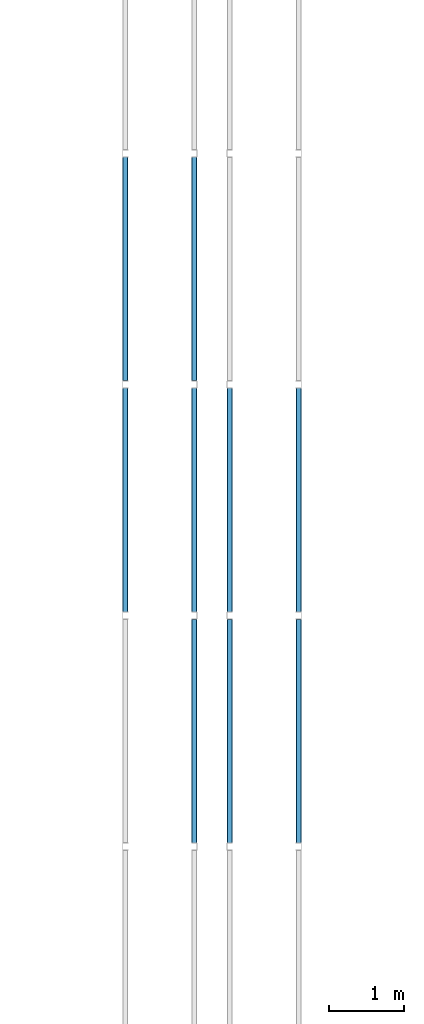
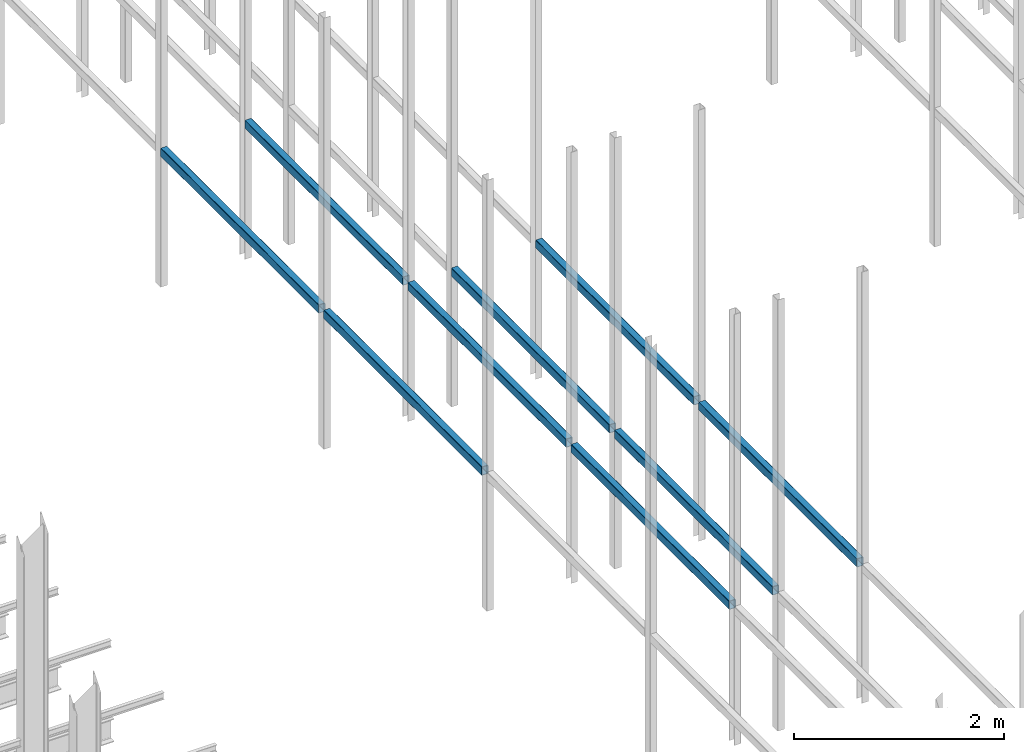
# One storey, part 178 of 302: 9 beams.
"""IFC2X3 building model written with IfcOpenShell, lengths in metres."""

from ifc_helpers import new_model, entity, si_unit, converted_unit, derived_unit, direction, frame, frame_2d, origin, place, context, subcontext, project, spatial, polyline, circle_curve, parameter, trimmed, segment, composite_curve, outline, extrude, material, type_object, element, save


model = new_model("IFC2X3")

# Units and contexts
model_context = context("Model", 3, precision=1e-05, world=origin(), true_north=direction((6.12303176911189e-17, 1.0)))
body_context = subcontext(model_context, "Body", "Model", "MODEL_VIEW")
ifc_project = project(units=[si_unit("LENGTHUNIT", "METRE"), si_unit("AREAUNIT", "SQUARE_METRE"), si_unit("VOLUMEUNIT", "CUBIC_METRE"), converted_unit("PLANEANGLEUNIT", "DEGREE", entity("IfcRatioMeasure", 0.0174532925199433), si_unit("PLANEANGLEUNIT", "RADIAN"), dimensions=[0, 0, 0, 0, 0, 0, 0]), si_unit("MASSUNIT", "GRAM", prefix="KILO"), derived_unit("MASSDENSITYUNIT", [(si_unit("MASSUNIT", "GRAM", prefix="KILO"), 1), (si_unit("LENGTHUNIT", "METRE"), -3)]), derived_unit("MOMENTOFINERTIAUNIT", [(si_unit("LENGTHUNIT", "METRE"), 4)]), si_unit("TIMEUNIT", "SECOND"), si_unit("FREQUENCYUNIT", "HERTZ"), si_unit("THERMODYNAMICTEMPERATUREUNIT", "DEGREE_CELSIUS"), derived_unit("THERMALTRANSMITTANCEUNIT", [(si_unit("MASSUNIT", "GRAM", prefix="KILO"), 1), (si_unit("THERMODYNAMICTEMPERATUREUNIT", "KELVIN"), -1), (si_unit("TIMEUNIT", "SECOND"), -3)]), derived_unit("VOLUMETRICFLOWRATEUNIT", [(si_unit("LENGTHUNIT", "METRE"), 3), (si_unit("TIMEUNIT", "SECOND"), -1)]), si_unit("ELECTRICCURRENTUNIT", "AMPERE"), si_unit("ELECTRICVOLTAGEUNIT", "VOLT"), si_unit("POWERUNIT", "WATT"), si_unit("FORCEUNIT", "NEWTON", prefix="KILO"), si_unit("ILLUMINANCEUNIT", "LUX"), si_unit("LUMINOUSFLUXUNIT", "LUMEN"), si_unit("LUMINOUSINTENSITYUNIT", "CANDELA"), derived_unit("USERDEFINED", [(si_unit("MASSUNIT", "GRAM", prefix="KILO"), -1), (si_unit("LENGTHUNIT", "METRE"), -2), (si_unit("TIMEUNIT", "SECOND"), 3), (si_unit("LUMINOUSFLUXUNIT", "LUMEN"), 1)]), derived_unit("LINEARVELOCITYUNIT", [(si_unit("LENGTHUNIT", "METRE"), 1), (si_unit("TIMEUNIT", "SECOND"), -1)]), si_unit("PRESSUREUNIT", "PASCAL"), derived_unit("USERDEFINED", [(si_unit("LENGTHUNIT", "METRE"), -2), (si_unit("MASSUNIT", "GRAM", prefix="KILO"), 1), (si_unit("TIMEUNIT", "SECOND"), -2)]), derived_unit("LINEARFORCEUNIT", [(si_unit("MASSUNIT", "GRAM", prefix="KILO"), 1), (si_unit("LENGTHUNIT", "METRE"), 1), (si_unit("TIMEUNIT", "SECOND"), -2), (si_unit("LENGTHUNIT", "METRE"), -1)]), derived_unit("PLANARFORCEUNIT", [(si_unit("MASSUNIT", "GRAM", prefix="KILO"), 1), (si_unit("LENGTHUNIT", "METRE"), 1), (si_unit("TIMEUNIT", "SECOND"), -2), (si_unit("LENGTHUNIT", "METRE"), -2)])], contexts=[model_context])

# Site, building, storey
site_placement = place(None, origin())
site = spatial("IfcSite", under=ifc_project, at=site_placement, Name="Default", CompositionType="ELEMENT")
building_placement = place(site_placement, origin())
building = spatial("IfcBuilding", under=site, at=building_placement, CompositionType="ELEMENT")
storey_placement = place(building_placement, frame((0.0, 0.0, -1.3)))
storey = spatial("IfcBuildingStorey", under=building, at=storey_placement, Name="00_EG", CompositionType="ELEMENT", Elevation=-1.3)

# Beams
ifc_material = material(Name="Metall - Baustahl S235 blau")
beam_type = type_object("IfcBeamType", Name="RHS Träger (EN 10219-2):RHS 100 x 75 x 5", PredefinedType="NOTDEFINED")
beam_1_placement = place(storey_placement, frame((-158.268311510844, 39.0480889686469, 2.885), z_axis=(0.0, 0.0, 1.0), x_axis=(0.0, 1.0, 0.0)))
element("IfcBeam", 1, at=beam_1_placement, inside=storey, type_object=beam_type, material=ifc_material, Name="RHS Träger (EN 10219-2):RHS 100 x 75 x 5", ObjectType="RHS Träger (EN 10219-2):RHS 100 x 75 x 5", context=body_context, shape_type="SweptSolid", body=[
    extrude(outline(composite_curve([segment(polyline([(-0.0399999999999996, -0.0375000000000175), (0.0400000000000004, -0.0375000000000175)]), True, "CONTINUOUS"), segment(trimmed(circle_curve(frame_2d((0.0400000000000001, -0.0275000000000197), x_axis=(0.0, 1.0)), 0.01), [parameter(180.0)], [parameter(270.0)], True, "PARAMETER"), True, "CONTINUOUS"), segment(polyline([(0.0500000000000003, -0.0275000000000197), (0.0500000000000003, 0.0274999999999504)]), True, "CONTINUOUS"), segment(trimmed(circle_curve(frame_2d((0.0400000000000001, 0.0274999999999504), x_axis=(0.0, 1.0)), 0.01), [parameter(270.0)], [parameter(4.07110999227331e-13)], True, "PARAMETER"), True, "CONTINUOUS"), segment(polyline([(0.0400000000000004, 0.0374999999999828), (-0.0399999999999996, 0.0374999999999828)]), True, "CONTINUOUS"), segment(trimmed(circle_curve(frame_2d((-0.0399999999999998, 0.0274999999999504), x_axis=(0.0, 1.0)), 0.01), [parameter(360.0)], [parameter(90.0000000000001)], True, "PARAMETER"), True, "CONTINUOUS"), segment(polyline([(-0.0499999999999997, 0.0274999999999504), (-0.0499999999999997, -0.0275000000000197)]), True, "CONTINUOUS"), segment(trimmed(circle_curve(frame_2d((-0.0399999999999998, -0.0275000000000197), x_axis=(0.0, 1.0)), 0.01), [parameter(90.0000000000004)], [parameter(180.0)], True, "PARAMETER"), True, "CONTINUOUS")], self_intersect=False), holes=[composite_curve([segment(trimmed(circle_curve(frame_2d((-0.0400000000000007, 0.0274999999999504), x_axis=(0.0, 1.0)), 0.005), [parameter(360.0)], [parameter(89.9999999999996)], True, "PARAMETER"), False, "CONTINUOUS"), segment(polyline([(-0.0400000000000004, 0.0324999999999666), (0.0399999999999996, 0.0324999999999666)]), True, "CONTINUOUS"), segment(trimmed(circle_curve(frame_2d((0.0399999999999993, 0.0274999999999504), x_axis=(0.0, 1.0)), 0.005), [parameter(270.0)], [parameter(0.0)], True, "PARAMETER"), False, "CONTINUOUS"), segment(polyline([(0.0449999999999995, 0.0274999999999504), (0.0449999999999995, -0.0275000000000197)]), True, "CONTINUOUS"), segment(trimmed(circle_curve(frame_2d((0.0399999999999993, -0.0275000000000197), x_axis=(0.0, 1.0)), 0.005), [parameter(180.0)], [parameter(269.999999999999)], True, "PARAMETER"), False, "CONTINUOUS"), segment(polyline([(0.0399999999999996, -0.0325000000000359), (-0.0400000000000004, -0.0325000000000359)]), True, "CONTINUOUS"), segment(trimmed(circle_curve(frame_2d((-0.0400000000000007, -0.0275000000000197), x_axis=(0.0, 1.0)), 0.005), [parameter(90.0000000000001)], [parameter(180.0)], True, "PARAMETER"), False, "CONTINUOUS"), segment(polyline([(-0.0450000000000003, -0.0275000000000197), (-0.0450000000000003, 0.0274999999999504)]), True, "CONTINUOUS")], self_intersect=False)]), frame((0.000100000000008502, -0.0374999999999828, -0.0500000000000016), z_axis=(1.0, 0.0, 0.0), x_axis=(0.0, 0.0, -1.0)), (0.0, 0.0, 1.0), 2.99979999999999),
])
beam_2_placement = place(storey_placement, frame((-157.718311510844, 39.0480889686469, 2.885), z_axis=(0.0, 0.0, 1.0), x_axis=(0.0, 1.0, 0.0)))
element("IfcBeam", 2, at=beam_2_placement, inside=storey, type_object=beam_type, material=ifc_material, Name="RHS Träger (EN 10219-2):RHS 100 x 75 x 5", ObjectType="RHS Träger (EN 10219-2):RHS 100 x 75 x 5", context=body_context, shape_type="SweptSolid", body=[
    extrude(outline(composite_curve([segment(trimmed(circle_curve(frame_2d((-0.0274999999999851, -0.0400000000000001), x_axis=(1.0, 0.0)), 0.01), [parameter(180.0)], [parameter(270.0)], True, "PARAMETER"), True, "CONTINUOUS"), segment(polyline([(-0.0274999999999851, -0.05), (0.0274999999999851, -0.05)]), True, "CONTINUOUS"), segment(trimmed(circle_curve(frame_2d((0.0274999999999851, -0.0400000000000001), x_axis=(1.0, 0.0)), 0.01), [parameter(270.0)], [parameter(5.08888749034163e-14)], True, "PARAMETER"), True, "CONTINUOUS"), segment(polyline([(0.0375000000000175, -0.0399999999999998), (0.0375000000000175, 0.0400000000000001)]), True, "CONTINUOUS"), segment(trimmed(circle_curve(frame_2d((0.0274999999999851, 0.0399999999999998), x_axis=(1.0, 0.0)), 0.01), [parameter(360.0)], [parameter(89.9999999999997)], True, "PARAMETER"), True, "CONTINUOUS"), segment(polyline([(0.0274999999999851, 0.05), (-0.0274999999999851, 0.05)]), True, "CONTINUOUS"), segment(trimmed(circle_curve(frame_2d((-0.0274999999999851, 0.0399999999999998), x_axis=(1.0, 0.0)), 0.01), [parameter(90.0000000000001)], [parameter(180.0)], True, "PARAMETER"), True, "CONTINUOUS"), segment(polyline([(-0.0374999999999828, 0.0400000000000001), (-0.0374999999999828, -0.0399999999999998)]), True, "CONTINUOUS")], self_intersect=False), holes=[composite_curve([segment(polyline([(0.0274999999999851, -0.0450000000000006), (-0.0274999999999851, -0.0450000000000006)]), True, "CONTINUOUS"), segment(trimmed(circle_curve(frame_2d((-0.0274999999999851, -0.0400000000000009), x_axis=(1.0, 0.0)), 0.005), [parameter(180.0)], [parameter(270.0)], True, "PARAMETER"), False, "CONTINUOUS"), segment(polyline([(-0.0325000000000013, -0.0400000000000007), (-0.0325000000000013, 0.0399999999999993)]), True, "CONTINUOUS"), segment(trimmed(circle_curve(frame_2d((-0.0274999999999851, 0.039999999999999), x_axis=(1.0, 0.0)), 0.005), [parameter(90.0000000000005)], [parameter(180.0)], True, "PARAMETER"), False, "CONTINUOUS"), segment(polyline([(-0.0274999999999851, 0.0449999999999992), (0.0274999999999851, 0.0449999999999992)]), True, "CONTINUOUS"), segment(trimmed(circle_curve(frame_2d((0.0274999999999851, 0.039999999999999), x_axis=(1.0, 0.0)), 0.005), [parameter(0.0)], [parameter(90.0000000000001)], True, "PARAMETER"), False, "CONTINUOUS"), segment(polyline([(0.0325000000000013, 0.0399999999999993), (0.0325000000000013, -0.0400000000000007)]), True, "CONTINUOUS"), segment(trimmed(circle_curve(frame_2d((0.0274999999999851, -0.0400000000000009), x_axis=(1.0, 0.0)), 0.005), [parameter(270.0)], [parameter(4.07110999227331e-13)], True, "PARAMETER"), False, "CONTINUOUS")], self_intersect=False)]), frame((9.99999999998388e-05, 0.0375000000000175, -0.0500000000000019), z_axis=(1.0, 0.0, 0.0), x_axis=(0.0, -1.0, 0.0)), (0.0, 0.0, 1.0), 2.99979999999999),
])
beam_3_placement = place(storey_placement, frame((-156.868311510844, 39.0480889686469, 2.885), z_axis=(0.0, 0.0, 1.0), x_axis=(0.0, 1.0, 0.0)))
element("IfcBeam", 3, at=beam_3_placement, inside=storey, type_object=beam_type, material=ifc_material, Name="RHS Träger (EN 10219-2):RHS 100 x 75 x 5", ObjectType="RHS Träger (EN 10219-2):RHS 100 x 75 x 5", context=body_context, shape_type="SweptSolid", body=[
    extrude(outline(composite_curve([segment(polyline([(-0.0399999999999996, -0.0374999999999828), (0.0400000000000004, -0.0374999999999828)]), True, "CONTINUOUS"), segment(trimmed(circle_curve(frame_2d((0.0400000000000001, -0.0274999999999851), x_axis=(0.0, 1.0)), 0.01), [parameter(180.0)], [parameter(270.0)], True, "PARAMETER"), True, "CONTINUOUS"), segment(polyline([(0.0500000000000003, -0.0274999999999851), (0.0500000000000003, 0.0274999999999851)]), True, "CONTINUOUS"), segment(trimmed(circle_curve(frame_2d((0.0400000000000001, 0.0274999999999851), x_axis=(0.0, 1.0)), 0.01), [parameter(270.0)], [parameter(4.07110999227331e-13)], True, "PARAMETER"), True, "CONTINUOUS"), segment(polyline([(0.0400000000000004, 0.0375000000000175), (-0.0399999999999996, 0.0375000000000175)]), True, "CONTINUOUS"), segment(trimmed(circle_curve(frame_2d((-0.0399999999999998, 0.0274999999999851), x_axis=(0.0, 1.0)), 0.01), [parameter(360.0)], [parameter(90.0000000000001)], True, "PARAMETER"), True, "CONTINUOUS"), segment(polyline([(-0.0499999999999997, 0.0274999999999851), (-0.0499999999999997, -0.0274999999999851)]), True, "CONTINUOUS"), segment(trimmed(circle_curve(frame_2d((-0.0399999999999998, -0.0274999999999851), x_axis=(0.0, 1.0)), 0.01), [parameter(90.0000000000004)], [parameter(180.0)], True, "PARAMETER"), True, "CONTINUOUS")], self_intersect=False), holes=[composite_curve([segment(trimmed(circle_curve(frame_2d((-0.0400000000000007, 0.0274999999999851), x_axis=(0.0, 1.0)), 0.005), [parameter(360.0)], [parameter(89.9999999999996)], True, "PARAMETER"), False, "CONTINUOUS"), segment(polyline([(-0.0400000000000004, 0.0325000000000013), (0.0399999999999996, 0.0325000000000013)]), True, "CONTINUOUS"), segment(trimmed(circle_curve(frame_2d((0.0399999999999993, 0.0274999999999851), x_axis=(0.0, 1.0)), 0.005), [parameter(270.0)], [parameter(0.0)], True, "PARAMETER"), False, "CONTINUOUS"), segment(polyline([(0.0449999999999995, 0.0274999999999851), (0.0449999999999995, -0.0274999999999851)]), True, "CONTINUOUS"), segment(trimmed(circle_curve(frame_2d((0.0399999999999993, -0.0274999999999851), x_axis=(0.0, 1.0)), 0.005), [parameter(180.0)], [parameter(269.999999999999)], True, "PARAMETER"), False, "CONTINUOUS"), segment(polyline([(0.0399999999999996, -0.0325000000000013), (-0.0400000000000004, -0.0325000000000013)]), True, "CONTINUOUS"), segment(trimmed(circle_curve(frame_2d((-0.0400000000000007, -0.0274999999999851), x_axis=(0.0, 1.0)), 0.005), [parameter(90.0000000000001)], [parameter(180.0)], True, "PARAMETER"), False, "CONTINUOUS"), segment(polyline([(-0.0450000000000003, -0.0274999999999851), (-0.0450000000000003, 0.0274999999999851)]), True, "CONTINUOUS")], self_intersect=False)]), frame((0.000100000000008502, -0.0375000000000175, -0.0500000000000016), z_axis=(1.0, 0.0, 0.0), x_axis=(0.0, 0.0, -1.0)), (0.0, 0.0, 1.0), 2.99979999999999),
])
beam_4_placement = place(storey_placement, frame((-159.118311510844, 42.1480889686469, 2.885), z_axis=(0.0, 0.0, 1.0), x_axis=(0.0, 1.0, 0.0)))
element("IfcBeam", 4, at=beam_4_placement, inside=storey, type_object=beam_type, material=ifc_material, Name="RHS Träger (EN 10219-2):RHS 100 x 75 x 5", ObjectType="RHS Träger (EN 10219-2):RHS 100 x 75 x 5", context=body_context, shape_type="SweptSolid", body=[
    extrude(outline(composite_curve([segment(trimmed(circle_curve(frame_2d((-0.0274999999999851, -0.0400000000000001), x_axis=(1.0, 0.0)), 0.01), [parameter(180.0)], [parameter(270.0)], True, "PARAMETER"), True, "CONTINUOUS"), segment(polyline([(-0.0274999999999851, -0.05), (0.0274999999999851, -0.05)]), True, "CONTINUOUS"), segment(trimmed(circle_curve(frame_2d((0.0274999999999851, -0.0400000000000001), x_axis=(1.0, 0.0)), 0.01), [parameter(270.0)], [parameter(5.08888749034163e-14)], True, "PARAMETER"), True, "CONTINUOUS"), segment(polyline([(0.0375000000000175, -0.0399999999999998), (0.0375000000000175, 0.0400000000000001)]), True, "CONTINUOUS"), segment(trimmed(circle_curve(frame_2d((0.0274999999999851, 0.0399999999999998), x_axis=(1.0, 0.0)), 0.01), [parameter(360.0)], [parameter(89.9999999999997)], True, "PARAMETER"), True, "CONTINUOUS"), segment(polyline([(0.0274999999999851, 0.05), (-0.0274999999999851, 0.05)]), True, "CONTINUOUS"), segment(trimmed(circle_curve(frame_2d((-0.0274999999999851, 0.0399999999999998), x_axis=(1.0, 0.0)), 0.01), [parameter(90.0000000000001)], [parameter(180.0)], True, "PARAMETER"), True, "CONTINUOUS"), segment(polyline([(-0.0374999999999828, 0.0400000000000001), (-0.0374999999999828, -0.0399999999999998)]), True, "CONTINUOUS")], self_intersect=False), holes=[composite_curve([segment(polyline([(0.0274999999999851, -0.0450000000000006), (-0.0274999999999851, -0.0450000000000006)]), True, "CONTINUOUS"), segment(trimmed(circle_curve(frame_2d((-0.0274999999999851, -0.0400000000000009), x_axis=(1.0, 0.0)), 0.005), [parameter(180.0)], [parameter(270.0)], True, "PARAMETER"), False, "CONTINUOUS"), segment(polyline([(-0.0325000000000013, -0.0400000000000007), (-0.0325000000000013, 0.0399999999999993)]), True, "CONTINUOUS"), segment(trimmed(circle_curve(frame_2d((-0.0274999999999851, 0.039999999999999), x_axis=(1.0, 0.0)), 0.005), [parameter(90.0000000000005)], [parameter(180.0)], True, "PARAMETER"), False, "CONTINUOUS"), segment(polyline([(-0.0274999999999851, 0.0449999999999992), (0.0274999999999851, 0.0449999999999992)]), True, "CONTINUOUS"), segment(trimmed(circle_curve(frame_2d((0.0274999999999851, 0.039999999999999), x_axis=(1.0, 0.0)), 0.005), [parameter(0.0)], [parameter(90.0000000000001)], True, "PARAMETER"), False, "CONTINUOUS"), segment(polyline([(0.0325000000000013, 0.0399999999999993), (0.0325000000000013, -0.0400000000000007)]), True, "CONTINUOUS"), segment(trimmed(circle_curve(frame_2d((0.0274999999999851, -0.0400000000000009), x_axis=(1.0, 0.0)), 0.005), [parameter(270.0)], [parameter(4.07110999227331e-13)], True, "PARAMETER"), False, "CONTINUOUS")], self_intersect=False)]), frame((9.99999999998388e-05, 0.0375000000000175, -0.0500000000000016), z_axis=(1.0, 0.0, 0.0), x_axis=(0.0, -1.0, 0.0)), (0.0, 0.0, 1.0), 2.99979999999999),
])
beam_5_placement = place(storey_placement, frame((-158.268311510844, 42.1480889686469, 2.885), z_axis=(0.0, 0.0, 1.0), x_axis=(0.0, 1.0, 0.0)))
element("IfcBeam", 5, at=beam_5_placement, inside=storey, type_object=beam_type, material=ifc_material, Name="RHS Träger (EN 10219-2):RHS 100 x 75 x 5", ObjectType="RHS Träger (EN 10219-2):RHS 100 x 75 x 5", context=body_context, shape_type="SweptSolid", body=[
    extrude(outline(composite_curve([segment(polyline([(-0.0399999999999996, -0.0375000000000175), (0.0400000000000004, -0.0375000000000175)]), True, "CONTINUOUS"), segment(trimmed(circle_curve(frame_2d((0.0400000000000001, -0.0275000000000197), x_axis=(0.0, 1.0)), 0.01), [parameter(180.0)], [parameter(270.0)], True, "PARAMETER"), True, "CONTINUOUS"), segment(polyline([(0.0500000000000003, -0.0275000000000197), (0.0500000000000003, 0.0274999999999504)]), True, "CONTINUOUS"), segment(trimmed(circle_curve(frame_2d((0.0400000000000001, 0.0274999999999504), x_axis=(0.0, 1.0)), 0.01), [parameter(270.0)], [parameter(4.07110999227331e-13)], True, "PARAMETER"), True, "CONTINUOUS"), segment(polyline([(0.0400000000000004, 0.0374999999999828), (-0.0399999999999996, 0.0374999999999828)]), True, "CONTINUOUS"), segment(trimmed(circle_curve(frame_2d((-0.0399999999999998, 0.0274999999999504), x_axis=(0.0, 1.0)), 0.01), [parameter(360.0)], [parameter(90.0000000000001)], True, "PARAMETER"), True, "CONTINUOUS"), segment(polyline([(-0.0499999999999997, 0.0274999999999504), (-0.0499999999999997, -0.0275000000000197)]), True, "CONTINUOUS"), segment(trimmed(circle_curve(frame_2d((-0.0399999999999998, -0.0275000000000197), x_axis=(0.0, 1.0)), 0.01), [parameter(90.0000000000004)], [parameter(180.0)], True, "PARAMETER"), True, "CONTINUOUS")], self_intersect=False), holes=[composite_curve([segment(trimmed(circle_curve(frame_2d((-0.0400000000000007, 0.0274999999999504), x_axis=(0.0, 1.0)), 0.005), [parameter(360.0)], [parameter(89.9999999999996)], True, "PARAMETER"), False, "CONTINUOUS"), segment(polyline([(-0.0400000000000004, 0.0324999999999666), (0.0399999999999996, 0.0324999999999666)]), True, "CONTINUOUS"), segment(trimmed(circle_curve(frame_2d((0.0399999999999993, 0.0274999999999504), x_axis=(0.0, 1.0)), 0.005), [parameter(270.0)], [parameter(0.0)], True, "PARAMETER"), False, "CONTINUOUS"), segment(polyline([(0.0449999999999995, 0.0274999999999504), (0.0449999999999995, -0.0275000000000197)]), True, "CONTINUOUS"), segment(trimmed(circle_curve(frame_2d((0.0399999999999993, -0.0275000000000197), x_axis=(0.0, 1.0)), 0.005), [parameter(180.0)], [parameter(269.999999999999)], True, "PARAMETER"), False, "CONTINUOUS"), segment(polyline([(0.0399999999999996, -0.0325000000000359), (-0.0400000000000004, -0.0325000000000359)]), True, "CONTINUOUS"), segment(trimmed(circle_curve(frame_2d((-0.0400000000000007, -0.0275000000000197), x_axis=(0.0, 1.0)), 0.005), [parameter(90.0000000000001)], [parameter(180.0)], True, "PARAMETER"), False, "CONTINUOUS"), segment(polyline([(-0.0450000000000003, -0.0275000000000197), (-0.0450000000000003, 0.0274999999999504)]), True, "CONTINUOUS")], self_intersect=False)]), frame((0.000100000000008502, -0.0374999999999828, -0.0500000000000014), z_axis=(1.0, 0.0, 0.0), x_axis=(0.0, 0.0, -1.0)), (0.0, 0.0, 1.0), 2.99979999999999),
])
beam_6_placement = place(storey_placement, frame((-157.718311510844, 42.1480889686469, 2.885), z_axis=(0.0, 0.0, 1.0), x_axis=(0.0, 1.0, 0.0)))
element("IfcBeam", 6, at=beam_6_placement, inside=storey, type_object=beam_type, material=ifc_material, Name="RHS Träger (EN 10219-2):RHS 100 x 75 x 5", ObjectType="RHS Träger (EN 10219-2):RHS 100 x 75 x 5", context=body_context, shape_type="SweptSolid", body=[
    extrude(outline(composite_curve([segment(trimmed(circle_curve(frame_2d((-0.0274999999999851, -0.0400000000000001), x_axis=(1.0, 0.0)), 0.01), [parameter(180.0)], [parameter(270.0)], True, "PARAMETER"), True, "CONTINUOUS"), segment(polyline([(-0.0274999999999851, -0.05), (0.0274999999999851, -0.05)]), True, "CONTINUOUS"), segment(trimmed(circle_curve(frame_2d((0.0274999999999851, -0.0400000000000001), x_axis=(1.0, 0.0)), 0.01), [parameter(270.0)], [parameter(5.08888749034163e-14)], True, "PARAMETER"), True, "CONTINUOUS"), segment(polyline([(0.0375000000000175, -0.0399999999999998), (0.0375000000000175, 0.0400000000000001)]), True, "CONTINUOUS"), segment(trimmed(circle_curve(frame_2d((0.0274999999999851, 0.0399999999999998), x_axis=(1.0, 0.0)), 0.01), [parameter(360.0)], [parameter(89.9999999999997)], True, "PARAMETER"), True, "CONTINUOUS"), segment(polyline([(0.0274999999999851, 0.05), (-0.0274999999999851, 0.05)]), True, "CONTINUOUS"), segment(trimmed(circle_curve(frame_2d((-0.0274999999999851, 0.0399999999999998), x_axis=(1.0, 0.0)), 0.01), [parameter(90.0000000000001)], [parameter(180.0)], True, "PARAMETER"), True, "CONTINUOUS"), segment(polyline([(-0.0374999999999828, 0.0400000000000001), (-0.0374999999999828, -0.0399999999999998)]), True, "CONTINUOUS")], self_intersect=False), holes=[composite_curve([segment(polyline([(0.0274999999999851, -0.0450000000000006), (-0.0274999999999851, -0.0450000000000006)]), True, "CONTINUOUS"), segment(trimmed(circle_curve(frame_2d((-0.0274999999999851, -0.0400000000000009), x_axis=(1.0, 0.0)), 0.005), [parameter(180.0)], [parameter(270.0)], True, "PARAMETER"), False, "CONTINUOUS"), segment(polyline([(-0.0325000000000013, -0.0400000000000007), (-0.0325000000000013, 0.0399999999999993)]), True, "CONTINUOUS"), segment(trimmed(circle_curve(frame_2d((-0.0274999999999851, 0.039999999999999), x_axis=(1.0, 0.0)), 0.005), [parameter(90.0000000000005)], [parameter(180.0)], True, "PARAMETER"), False, "CONTINUOUS"), segment(polyline([(-0.0274999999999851, 0.0449999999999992), (0.0274999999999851, 0.0449999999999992)]), True, "CONTINUOUS"), segment(trimmed(circle_curve(frame_2d((0.0274999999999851, 0.039999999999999), x_axis=(1.0, 0.0)), 0.005), [parameter(0.0)], [parameter(90.0000000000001)], True, "PARAMETER"), False, "CONTINUOUS"), segment(polyline([(0.0325000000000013, 0.0399999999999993), (0.0325000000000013, -0.0400000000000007)]), True, "CONTINUOUS"), segment(trimmed(circle_curve(frame_2d((0.0274999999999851, -0.0400000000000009), x_axis=(1.0, 0.0)), 0.005), [parameter(270.0)], [parameter(4.07110999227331e-13)], True, "PARAMETER"), False, "CONTINUOUS")], self_intersect=False)]), frame((9.99999999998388e-05, 0.0375000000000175, -0.0500000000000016), z_axis=(1.0, 0.0, 0.0), x_axis=(0.0, -1.0, 0.0)), (0.0, 0.0, 1.0), 2.99979999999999),
])
beam_7_placement = place(storey_placement, frame((-156.868311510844, 42.1480889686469, 2.885), z_axis=(0.0, 0.0, 1.0), x_axis=(0.0, 1.0, 0.0)))
element("IfcBeam", 7, at=beam_7_placement, inside=storey, type_object=beam_type, material=ifc_material, Name="RHS Träger (EN 10219-2):RHS 100 x 75 x 5", ObjectType="RHS Träger (EN 10219-2):RHS 100 x 75 x 5", context=body_context, shape_type="SweptSolid", body=[
    extrude(outline(composite_curve([segment(polyline([(-0.0399999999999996, -0.0374999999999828), (0.0400000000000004, -0.0374999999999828)]), True, "CONTINUOUS"), segment(trimmed(circle_curve(frame_2d((0.0400000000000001, -0.0274999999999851), x_axis=(0.0, 1.0)), 0.01), [parameter(180.0)], [parameter(270.0)], True, "PARAMETER"), True, "CONTINUOUS"), segment(polyline([(0.0500000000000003, -0.0274999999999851), (0.0500000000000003, 0.0274999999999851)]), True, "CONTINUOUS"), segment(trimmed(circle_curve(frame_2d((0.0400000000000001, 0.0274999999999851), x_axis=(0.0, 1.0)), 0.01), [parameter(270.0)], [parameter(4.07110999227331e-13)], True, "PARAMETER"), True, "CONTINUOUS"), segment(polyline([(0.0400000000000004, 0.0375000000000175), (-0.0399999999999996, 0.0375000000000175)]), True, "CONTINUOUS"), segment(trimmed(circle_curve(frame_2d((-0.0399999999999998, 0.0274999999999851), x_axis=(0.0, 1.0)), 0.01), [parameter(360.0)], [parameter(90.0000000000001)], True, "PARAMETER"), True, "CONTINUOUS"), segment(polyline([(-0.0499999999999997, 0.0274999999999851), (-0.0499999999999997, -0.0274999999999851)]), True, "CONTINUOUS"), segment(trimmed(circle_curve(frame_2d((-0.0399999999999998, -0.0274999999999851), x_axis=(0.0, 1.0)), 0.01), [parameter(90.0000000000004)], [parameter(180.0)], True, "PARAMETER"), True, "CONTINUOUS")], self_intersect=False), holes=[composite_curve([segment(trimmed(circle_curve(frame_2d((-0.0400000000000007, 0.0274999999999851), x_axis=(0.0, 1.0)), 0.005), [parameter(360.0)], [parameter(89.9999999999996)], True, "PARAMETER"), False, "CONTINUOUS"), segment(polyline([(-0.0400000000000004, 0.0325000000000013), (0.0399999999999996, 0.0325000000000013)]), True, "CONTINUOUS"), segment(trimmed(circle_curve(frame_2d((0.0399999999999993, 0.0274999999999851), x_axis=(0.0, 1.0)), 0.005), [parameter(270.0)], [parameter(0.0)], True, "PARAMETER"), False, "CONTINUOUS"), segment(polyline([(0.0449999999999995, 0.0274999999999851), (0.0449999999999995, -0.0274999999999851)]), True, "CONTINUOUS"), segment(trimmed(circle_curve(frame_2d((0.0399999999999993, -0.0274999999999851), x_axis=(0.0, 1.0)), 0.005), [parameter(180.0)], [parameter(269.999999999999)], True, "PARAMETER"), False, "CONTINUOUS"), segment(polyline([(0.0399999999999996, -0.0325000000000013), (-0.0400000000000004, -0.0325000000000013)]), True, "CONTINUOUS"), segment(trimmed(circle_curve(frame_2d((-0.0400000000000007, -0.0274999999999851), x_axis=(0.0, 1.0)), 0.005), [parameter(90.0000000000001)], [parameter(180.0)], True, "PARAMETER"), False, "CONTINUOUS"), segment(polyline([(-0.0450000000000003, -0.0274999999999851), (-0.0450000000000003, 0.0274999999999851)]), True, "CONTINUOUS")], self_intersect=False)]), frame((0.000100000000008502, -0.0375000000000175, -0.0500000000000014), z_axis=(1.0, 0.0, 0.0), x_axis=(0.0, 0.0, -1.0)), (0.0, 0.0, 1.0), 2.99979999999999),
])
beam_8_placement = place(storey_placement, frame((-159.118311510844, 45.2480889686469, 2.885), z_axis=(0.0, 0.0, 1.0), x_axis=(0.0, 1.0, 0.0)))
element("IfcBeam", 8, at=beam_8_placement, inside=storey, type_object=beam_type, material=ifc_material, Name="RHS Träger (EN 10219-2):RHS 100 x 75 x 5", ObjectType="RHS Träger (EN 10219-2):RHS 100 x 75 x 5", context=body_context, shape_type="SweptSolid", body=[
    extrude(outline(composite_curve([segment(trimmed(circle_curve(frame_2d((-0.0274999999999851, -0.0400000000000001), x_axis=(1.0, 0.0)), 0.01), [parameter(180.0)], [parameter(270.0)], True, "PARAMETER"), True, "CONTINUOUS"), segment(polyline([(-0.0274999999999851, -0.05), (0.0274999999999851, -0.05)]), True, "CONTINUOUS"), segment(trimmed(circle_curve(frame_2d((0.0274999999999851, -0.0400000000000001), x_axis=(1.0, 0.0)), 0.01), [parameter(270.0)], [parameter(5.08888749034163e-14)], True, "PARAMETER"), True, "CONTINUOUS"), segment(polyline([(0.0375000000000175, -0.0399999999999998), (0.0375000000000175, 0.0400000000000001)]), True, "CONTINUOUS"), segment(trimmed(circle_curve(frame_2d((0.0274999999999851, 0.0399999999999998), x_axis=(1.0, 0.0)), 0.01), [parameter(360.0)], [parameter(89.9999999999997)], True, "PARAMETER"), True, "CONTINUOUS"), segment(polyline([(0.0274999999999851, 0.05), (-0.0274999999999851, 0.05)]), True, "CONTINUOUS"), segment(trimmed(circle_curve(frame_2d((-0.0274999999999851, 0.0399999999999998), x_axis=(1.0, 0.0)), 0.01), [parameter(90.0000000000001)], [parameter(180.0)], True, "PARAMETER"), True, "CONTINUOUS"), segment(polyline([(-0.0374999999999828, 0.0400000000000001), (-0.0374999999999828, -0.0399999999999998)]), True, "CONTINUOUS")], self_intersect=False), holes=[composite_curve([segment(polyline([(0.0274999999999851, -0.0450000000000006), (-0.0274999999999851, -0.0450000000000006)]), True, "CONTINUOUS"), segment(trimmed(circle_curve(frame_2d((-0.0274999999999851, -0.0400000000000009), x_axis=(1.0, 0.0)), 0.005), [parameter(180.0)], [parameter(270.0)], True, "PARAMETER"), False, "CONTINUOUS"), segment(polyline([(-0.0325000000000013, -0.0400000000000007), (-0.0325000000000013, 0.0399999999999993)]), True, "CONTINUOUS"), segment(trimmed(circle_curve(frame_2d((-0.0274999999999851, 0.039999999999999), x_axis=(1.0, 0.0)), 0.005), [parameter(90.0000000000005)], [parameter(180.0)], True, "PARAMETER"), False, "CONTINUOUS"), segment(polyline([(-0.0274999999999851, 0.0449999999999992), (0.0274999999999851, 0.0449999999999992)]), True, "CONTINUOUS"), segment(trimmed(circle_curve(frame_2d((0.0274999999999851, 0.039999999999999), x_axis=(1.0, 0.0)), 0.005), [parameter(0.0)], [parameter(90.0000000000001)], True, "PARAMETER"), False, "CONTINUOUS"), segment(polyline([(0.0325000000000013, 0.0399999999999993), (0.0325000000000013, -0.0400000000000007)]), True, "CONTINUOUS"), segment(trimmed(circle_curve(frame_2d((0.0274999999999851, -0.0400000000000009), x_axis=(1.0, 0.0)), 0.005), [parameter(270.0)], [parameter(4.07110999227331e-13)], True, "PARAMETER"), False, "CONTINUOUS")], self_intersect=False)]), frame((9.99999999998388e-05, 0.0375000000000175, -0.0500000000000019), z_axis=(1.0, 0.0, 0.0), x_axis=(0.0, -1.0, 0.0)), (0.0, 0.0, 1.0), 2.99979999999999),
])
beam_9_placement = place(storey_placement, frame((-158.268311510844, 45.2480889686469, 2.885), z_axis=(0.0, 0.0, 1.0), x_axis=(0.0, 1.0, 0.0)))
element("IfcBeam", 9, at=beam_9_placement, inside=storey, type_object=beam_type, material=ifc_material, Name="RHS Träger (EN 10219-2):RHS 100 x 75 x 5", ObjectType="RHS Träger (EN 10219-2):RHS 100 x 75 x 5", context=body_context, shape_type="SweptSolid", body=[
    extrude(outline(composite_curve([segment(polyline([(-0.0399999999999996, -0.0375000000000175), (0.0400000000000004, -0.0375000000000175)]), True, "CONTINUOUS"), segment(trimmed(circle_curve(frame_2d((0.0400000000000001, -0.0275000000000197), x_axis=(0.0, 1.0)), 0.01), [parameter(180.0)], [parameter(270.0)], True, "PARAMETER"), True, "CONTINUOUS"), segment(polyline([(0.0500000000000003, -0.0275000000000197), (0.0500000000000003, 0.0274999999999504)]), True, "CONTINUOUS"), segment(trimmed(circle_curve(frame_2d((0.0400000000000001, 0.0274999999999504), x_axis=(0.0, 1.0)), 0.01), [parameter(270.0)], [parameter(4.07110999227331e-13)], True, "PARAMETER"), True, "CONTINUOUS"), segment(polyline([(0.0400000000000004, 0.0374999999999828), (-0.0399999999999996, 0.0374999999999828)]), True, "CONTINUOUS"), segment(trimmed(circle_curve(frame_2d((-0.0399999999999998, 0.0274999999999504), x_axis=(0.0, 1.0)), 0.01), [parameter(360.0)], [parameter(90.0000000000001)], True, "PARAMETER"), True, "CONTINUOUS"), segment(polyline([(-0.0499999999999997, 0.0274999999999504), (-0.0499999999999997, -0.0275000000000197)]), True, "CONTINUOUS"), segment(trimmed(circle_curve(frame_2d((-0.0399999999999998, -0.0275000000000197), x_axis=(0.0, 1.0)), 0.01), [parameter(90.0000000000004)], [parameter(180.0)], True, "PARAMETER"), True, "CONTINUOUS")], self_intersect=False), holes=[composite_curve([segment(trimmed(circle_curve(frame_2d((-0.0400000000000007, 0.0274999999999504), x_axis=(0.0, 1.0)), 0.005), [parameter(360.0)], [parameter(89.9999999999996)], True, "PARAMETER"), False, "CONTINUOUS"), segment(polyline([(-0.0400000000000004, 0.0324999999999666), (0.0399999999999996, 0.0324999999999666)]), True, "CONTINUOUS"), segment(trimmed(circle_curve(frame_2d((0.0399999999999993, 0.0274999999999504), x_axis=(0.0, 1.0)), 0.005), [parameter(270.0)], [parameter(0.0)], True, "PARAMETER"), False, "CONTINUOUS"), segment(polyline([(0.0449999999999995, 0.0274999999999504), (0.0449999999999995, -0.0275000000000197)]), True, "CONTINUOUS"), segment(trimmed(circle_curve(frame_2d((0.0399999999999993, -0.0275000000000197), x_axis=(0.0, 1.0)), 0.005), [parameter(180.0)], [parameter(269.999999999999)], True, "PARAMETER"), False, "CONTINUOUS"), segment(polyline([(0.0399999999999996, -0.0325000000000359), (-0.0400000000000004, -0.0325000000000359)]), True, "CONTINUOUS"), segment(trimmed(circle_curve(frame_2d((-0.0400000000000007, -0.0275000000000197), x_axis=(0.0, 1.0)), 0.005), [parameter(90.0000000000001)], [parameter(180.0)], True, "PARAMETER"), False, "CONTINUOUS"), segment(polyline([(-0.0450000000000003, -0.0275000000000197), (-0.0450000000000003, 0.0274999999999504)]), True, "CONTINUOUS")], self_intersect=False)]), frame((9.99999999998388e-05, -0.0374999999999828, -0.0500000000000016), z_axis=(1.0, 0.0, 0.0), x_axis=(0.0, 0.0, -1.0)), (0.0, 0.0, 1.0), 2.99979999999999),
])

save(model, "model.ifc")
